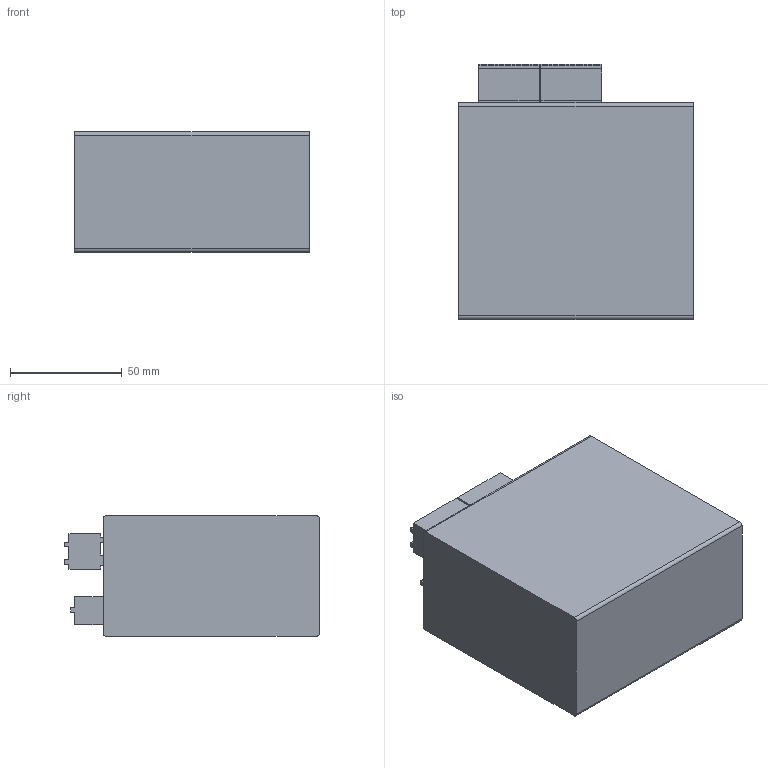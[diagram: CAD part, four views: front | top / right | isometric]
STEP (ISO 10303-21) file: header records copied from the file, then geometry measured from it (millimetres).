
FILE_DESCRIPTION((''),'2;1');
FILE_NAME('ASM0002_ASM_3_ASM_ASM','2026-05-28T',('Administrator'),(''),'PRO/ENGINEER BY PARAMETRIC TECHNOLOGY CORPORATION, 2015240','PRO/ENGINEER BY PARAMETRIC TECHNOLOGY CORPORATION, 2015240','');
FILE_SCHEMA(('CONFIG_CONTROL_DESIGN'));
Products named in the file (15): PRT0001_3; PRT0001; PRT0002; AMP_RJ45_MODULAR_JACK_SOLDER_PI; PRT0003; ASM0001_ASM; RJ45_MODULAR_JACK_-_AMP_1-40654_ASM; 03_1; AMP_RJ45_MODULAR_JACK_HOUSING_1; AMP_RJ45_MODULAR_JACK_PIN_1; PRT0007; AMP_RJ45_MODULAR_JACK_SHIELD_1; ASM0001_ASM_1_ASM_ASM; PRT0004; ASM0002_ASM_3_ASM_ASM
Assembly tree (43 placements, depth 4):
  ASM0002_ASM_3_ASM_ASM
    PRT0001_3
    RJ45_MODULAR_JACK_-_AMP_1-40654_ASM
      ASM0001_ASM
        PRT0001
        PRT0002  x8
        AMP_RJ45_MODULAR_JACK_SOLDER_PI  x8
        PRT0003
    03_1  x2
    ASM0001_ASM_1_ASM_ASM
      AMP_RJ45_MODULAR_JACK_HOUSING_1
      AMP_RJ45_MODULAR_JACK_PIN_1  x8
      PRT0007  x8
      AMP_RJ45_MODULAR_JACK_SHIELD_1
    PRT0004
Bounding box: 105 x 114.3 x 54 mm (x, y, z)
Volume: 555639.2 mm3; surface area: 66286 mm2
Topology: 40 solids, 40 shells, 7024 faces, 19721 edges, 13132 vertices
Faces by surface type: plane 6030, cylinder 888, bspline 76, sphere 22, torus 8
Entity records: 211469 total; most frequent: CARTESIAN_POINT 42330, ORIENTED_EDGE 36634, DIRECTION 32565, EDGE_CURVE 18317, VECTOR 15731, LINE 15731, VERTEX_POINT 12196, AXIS2_PLACEMENT_3D 8417
